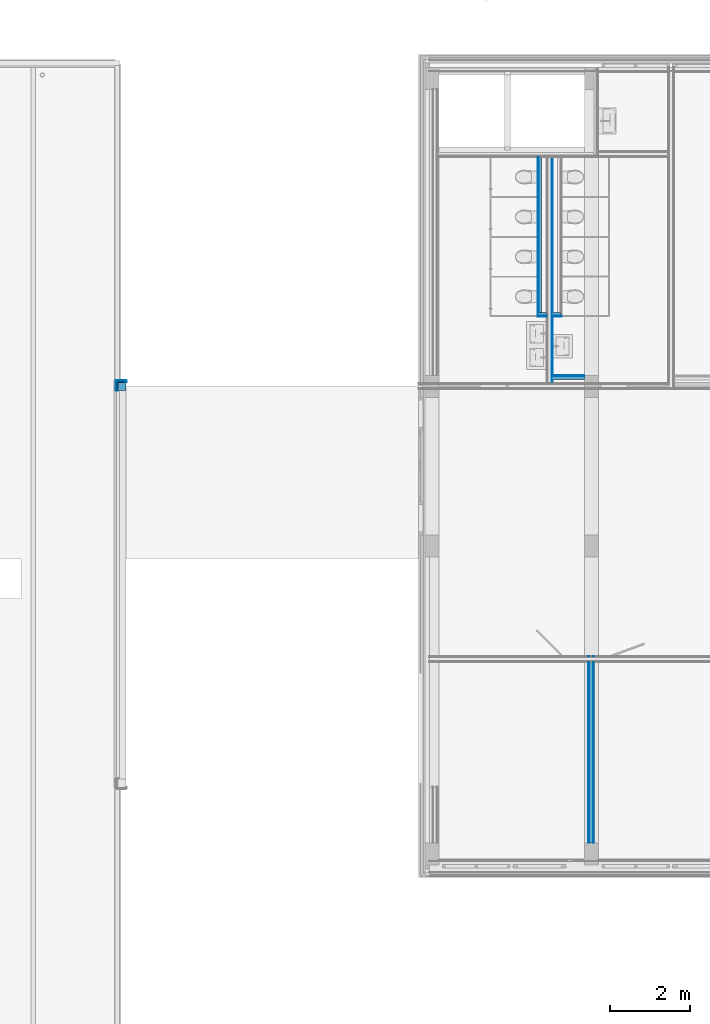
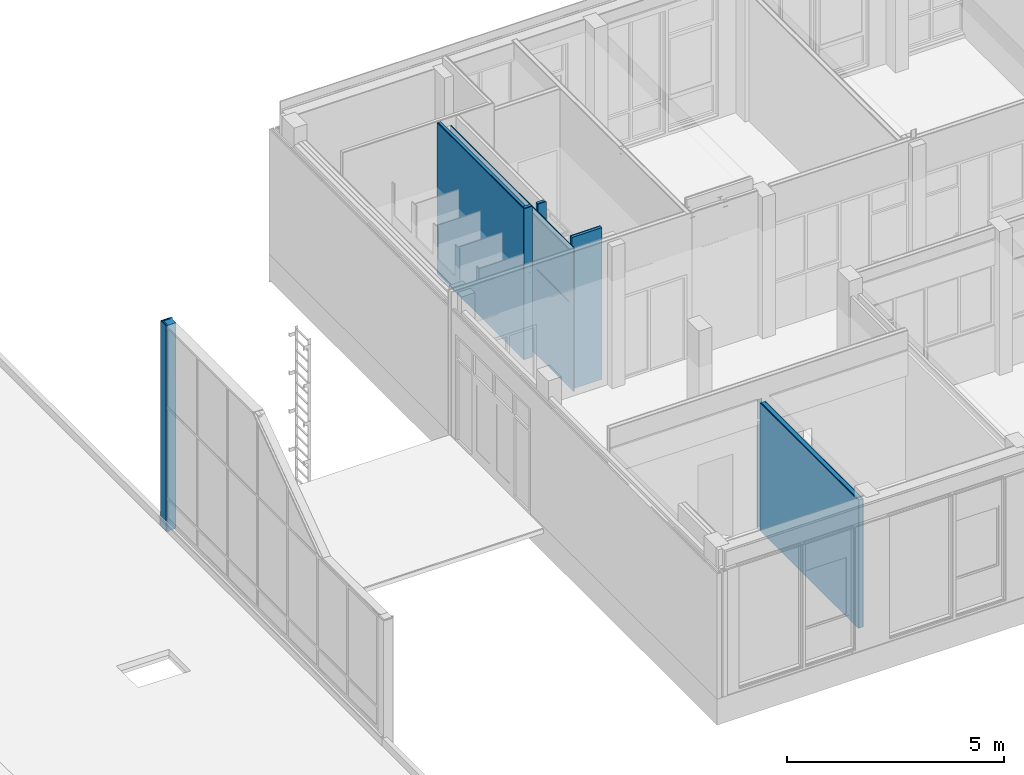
# One storey, part 21 of 54: 22 building element parts, 6 elements without a shape of their own.
"""IFC2X3 building model written with IfcOpenShell, lengths in millimetres."""

from ifc_helpers import new_model, entity, si_unit, converted_unit, derived_unit, money_unit, direction, frame, origin_with_axes, place, context, subcontext, project, spatial, faceted_brep, material, type_object, element, aggregate, save


model = new_model("IFC2X3")

# Units and contexts
model_context = context("Model", 3, precision=0.01, world=origin_with_axes(), true_north=direction((0.0, 1.0)))
body_context = subcontext(model_context, "Body", "Model", "MODEL_VIEW")
ifc_project = project(units=[si_unit("LENGTHUNIT", "METRE", prefix="MILLI"), si_unit("AREAUNIT", "SQUARE_METRE"), si_unit("VOLUMEUNIT", "CUBIC_METRE"), converted_unit("PLANEANGLEUNIT", "DEGREE", entity("IfcPlaneAngleMeasure", 0.0174532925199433), si_unit("PLANEANGLEUNIT", "RADIAN"), dimensions=[0, 0, 0, 0, 0, 0, 0]), money_unit("EUR"), converted_unit("TIMEUNIT", "Year", entity("IfcTimeMeasure", 31557600.0), si_unit("TIMEUNIT", "SECOND"), dimensions=[0, 0, 1, 0, 0, 0, 0]), si_unit("MASSUNIT", "GRAM", prefix="KILO"), si_unit("THERMODYNAMICTEMPERATUREUNIT", "DEGREE_CELSIUS"), si_unit("LUMINOUSINTENSITYUNIT", "LUMEN"), si_unit("ENERGYUNIT", "JOULE", prefix="MEGA"), derived_unit("THERMALCONDUCTANCEUNIT", [(si_unit("POWERUNIT", "WATT"), 1), (si_unit("LENGTHUNIT", "METRE"), -1), (si_unit("THERMODYNAMICTEMPERATUREUNIT", "KELVIN"), -1)]), derived_unit("SPECIFICHEATCAPACITYUNIT", [(si_unit("ENERGYUNIT", "JOULE"), 1), (si_unit("MASSUNIT", "GRAM", prefix="KILO"), -1), (si_unit("THERMODYNAMICTEMPERATUREUNIT", "KELVIN"), -1)]), derived_unit("MASSDENSITYUNIT", [(si_unit("MASSUNIT", "GRAM", prefix="KILO"), 1), (si_unit("VOLUMEUNIT", "CUBIC_METRE"), -1)])], contexts=[model_context])

# Site, building, storey
site_placement = place(None, origin_with_axes())
site = spatial("IfcSite", under=ifc_project, at=site_placement, Name="<site naam>", CompositionType="ELEMENT")
building_placement = place(site_placement, origin_with_axes())
building = spatial("IfcBuilding", under=site, at=building_placement, Name="<Naam gebouw>", CompositionType="ELEMENT")
storey_placement = place(building_placement, frame((0.0, 0.0, 8500.0), z_axis=(0.0, 0.0, 1.0), x_axis=(1.0, 0.0, 0.0)))
storey = spatial("IfcBuildingStorey", under=building, at=storey_placement, Name="02 2e verdieping", CompositionType="ELEMENT", Elevation=8500.0)

# Wall, building element parts
wall_type_1 = type_object("IfcWallType", Name="MS-01 GF 150 ECO DGS/2.100.2.A 150", PredefinedType="NOTDEFINED")
wall_1_placement = place(storey_placement, frame((16000.00000000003, 5226.069214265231, 0.0), z_axis=(0.0, 0.0, 1.0), x_axis=(0.0, -1.0, 0.0)))
wall_1 = element("IfcWall", 1, at=wall_1_placement, inside=storey, type_object=wall_type_1, Name="22_Binnenwand_MS-01")
ifc_material_1 = material(Name="gipsplaat")
building_element_part_1_placement = place(wall_1_placement, origin_with_axes())
building_element_part_1 = element("IfcBuildingElementPart", 2, at=building_element_part_1_placement, material=ifc_material_1, Name="gipsplaat", context=body_context, shape_type="Brep", body=[
    faceted_brep([(151.0692142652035, 50.00000000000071, 3610.000000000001), (151.0692142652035, 62.5, 3610.000000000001), (151.0692142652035, 62.5, 3.000000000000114), (151.0692142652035, 50.00000000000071, 3.000000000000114), (4676.069214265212, 62.5, 3610.000000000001), (4676.069214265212, 50.00000000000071, 3610.000000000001), (4676.069214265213, 62.5, 3.000000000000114), (4676.069214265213, 50.00000000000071, 3.000000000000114)], [[[0, 1, 2, 3]], [[4, 1, 0, 5]], [[1, 4, 6, 2]], [[7, 3, 2, 6]], [[5, 0, 3, 7]], [[4, 5, 7, 6]]]),
    faceted_brep([(0.0, 50.00000000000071, 3610.000000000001), (0.0, 62.5, 3610.000000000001), (0.0, 62.5, 3039.999999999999), (0.0, 50.00000000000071, 3039.999999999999), (1.069214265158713, 62.5, 3610.000000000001), (1.069214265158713, 50.00000000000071, 3610.000000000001), (1.069214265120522, 62.5, 3039.999999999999), (1.069214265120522, 50.00000000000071, 3039.999999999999)], [[[0, 1, 2, 3]], [[4, 1, 0, 5]], [[1, 4, 6, 2]], [[7, 3, 2, 6]], [[5, 0, 3, 7]], [[4, 5, 7, 6]]]),
    faceted_brep([(1.069214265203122, 62.5, 3.000000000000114), (0.0, 62.5, 3.000000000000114), (0.0, 62.5, 3000.0), (1.069214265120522, 62.5, 3000.0), (0.0, 50.00000000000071, 3.000000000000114), (1.069214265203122, 50.00000000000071, 3.000000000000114), (0.0, 50.00000000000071, 3000.0), (1.069214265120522, 50.00000000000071, 3000.0)], [[[0, 1, 2, 3]], [[4, 1, 0, 5]], [[1, 4, 6, 2]], [[3, 2, 6, 7]], [[5, 0, 3, 7]], [[4, 5, 7, 6]]]),
])
ifc_material_2 = material(Name="isolatie_steenwol LSW")
building_element_part_2_placement = place(wall_1_placement, origin_with_axes())
building_element_part_2 = element("IfcBuildingElementPart", 3, at=building_element_part_2_placement, material=ifc_material_2, Name="isolatie_steenwol LSW", context=body_context, shape_type="Brep", body=[
    faceted_brep([(151.0692142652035, -49.99999999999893, 3610.000000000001), (151.0692142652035, 50.00000000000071, 3610.000000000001), (151.0692142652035, 50.00000000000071, 3.000000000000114), (151.0692142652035, -50.00000000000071, 3.000000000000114), (4676.069214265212, 50.00000000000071, 3610.000000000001), (4676.069214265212, -50.00000000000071, 3610.000000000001), (4676.069214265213, 50.00000000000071, 3.000000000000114), (4676.069214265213, -50.00000000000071, 3.000000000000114)], [[[0, 1, 2, 3]], [[4, 1, 0, 5]], [[1, 4, 6, 2]], [[7, 3, 2, 6]], [[5, 0, 3, 7]], [[4, 5, 7, 6]]]),
    faceted_brep([(0.0, -49.99999999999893, 3610.000000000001), (0.0, 50.00000000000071, 3610.000000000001), (0.0, 50.00000000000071, 3039.999999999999), (0.0, -49.99999999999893, 3039.999999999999), (1.069214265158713, 50.00000000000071, 3610.000000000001), (1.069214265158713, -49.99999999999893, 3610.000000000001), (1.069214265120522, 50.00000000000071, 3039.999999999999), (1.069214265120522, -49.99999999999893, 3039.999999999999)], [[[0, 1, 2, 3]], [[4, 1, 0, 5]], [[1, 4, 6, 2]], [[7, 3, 2, 6]], [[5, 0, 3, 7]], [[4, 5, 7, 6]]]),
    faceted_brep([(1.069214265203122, 50.00000000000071, 3.000000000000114), (0.0, 50.00000000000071, 3.000000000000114), (0.0, 50.00000000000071, 3000.0), (1.069214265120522, 50.00000000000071, 3000.0), (0.0, -50.00000000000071, 3.000000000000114), (1.069214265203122, -50.00000000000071, 3.000000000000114), (0.0, -49.99999999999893, 3000.0), (1.069214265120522, -50.00000000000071, 3000.0)], [[[0, 1, 2, 3]], [[4, 1, 0, 5]], [[1, 4, 6, 2]], [[3, 2, 6, 7]], [[5, 0, 3, 7]], [[4, 5, 7, 6]]]),
])
building_element_part_3_placement = place(wall_1_placement, origin_with_axes())
building_element_part_3 = element("IfcBuildingElementPart", 4, at=building_element_part_3_placement, material=ifc_material_1, Name="gipsplaat", context=body_context, shape_type="Brep", body=[
    faceted_brep([(151.0692142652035, -62.5, 3610.000000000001), (151.0692142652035, -49.99999999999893, 3610.000000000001), (151.0692142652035, -50.00000000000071, 3.000000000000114), (151.0692142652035, -62.5, 3.000000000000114), (4676.069214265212, -50.00000000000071, 3610.000000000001), (4676.069214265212, -62.5, 3610.000000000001), (4676.069214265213, -50.00000000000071, 3.000000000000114), (4676.069214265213, -62.5, 3.000000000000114)], [[[0, 1, 2, 3]], [[4, 1, 0, 5]], [[1, 4, 6, 2]], [[7, 3, 2, 6]], [[5, 0, 3, 7]], [[4, 5, 7, 6]]]),
    faceted_brep([(0.0, -62.5, 3610.000000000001), (0.0, -49.99999999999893, 3610.000000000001), (0.0, -49.99999999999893, 3039.999999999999), (0.0, -62.5, 3039.999999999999), (1.069214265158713, -49.99999999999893, 3610.000000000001), (1.069214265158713, -62.5, 3610.000000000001), (1.069214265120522, -49.99999999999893, 3039.999999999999), (1.069214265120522, -62.5, 3039.999999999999)], [[[0, 1, 2, 3]], [[4, 1, 0, 5]], [[1, 4, 6, 2]], [[7, 3, 2, 6]], [[5, 0, 3, 7]], [[4, 5, 7, 6]]]),
    faceted_brep([(1.069214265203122, -50.00000000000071, 3.000000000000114), (0.0, -50.00000000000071, 3.000000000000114), (0.0, -49.99999999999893, 3000.0), (1.069214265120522, -50.00000000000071, 3000.0), (0.0, -62.5, 3.000000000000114), (1.069214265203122, -62.5, 3.000000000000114), (0.0, -62.5, 3000.0), (1.069214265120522, -62.5, 3000.0)], [[[0, 1, 2, 3]], [[4, 1, 0, 5]], [[1, 4, 6, 2]], [[3, 2, 6, 7]], [[5, 0, 3, 7]], [[4, 5, 7, 6]]]),
])
building_element_part_4_placement = place(wall_1_placement, origin_with_axes())
building_element_part_4 = element("IfcBuildingElementPart", 5, at=building_element_part_4_placement, material=ifc_material_1, Name="gipsplaat", context=body_context, shape_type="Brep", body=[
    faceted_brep([(151.0692142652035, -74.99999999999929, 3610.000000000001), (151.0692142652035, -62.5, 3610.000000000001), (151.0692142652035, -62.5, 3.000000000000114), (151.0692142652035, -74.99999999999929, 3.000000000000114), (4676.069214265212, -62.5, 3610.000000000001), (4676.069214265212, -75.00000000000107, 3610.000000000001), (4676.069214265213, -62.5, 3.000000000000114), (4676.069214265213, -75.00000000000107, 3.000000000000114)], [[[0, 1, 2, 3]], [[4, 1, 0, 5]], [[1, 4, 6, 2]], [[7, 3, 2, 6]], [[5, 0, 3, 7]], [[4, 5, 7, 6]]]),
    faceted_brep([(0.0, -74.99999999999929, 3610.000000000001), (0.0, -62.5, 3610.000000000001), (0.0, -62.5, 3039.999999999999), (0.0, -74.99999999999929, 3039.999999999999), (1.069214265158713, -62.5, 3610.000000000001), (1.069214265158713, -74.99999999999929, 3610.000000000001), (1.069214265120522, -62.5, 3039.999999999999), (1.069214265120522, -74.99999999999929, 3039.999999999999)], [[[0, 1, 2, 3]], [[4, 1, 0, 5]], [[1, 4, 6, 2]], [[7, 3, 2, 6]], [[5, 0, 3, 7]], [[4, 5, 7, 6]]]),
    faceted_brep([(1.069214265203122, -62.5, 3.000000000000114), (0.0, -62.5, 3.000000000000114), (0.0, -62.5, 3000.0), (1.069214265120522, -62.5, 3000.0), (0.0, -74.99999999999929, 3.000000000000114), (1.069214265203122, -74.99999999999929, 3.000000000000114), (0.0, -74.99999999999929, 3000.0), (1.069214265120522, -74.99999999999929, 3000.0)], [[[0, 1, 2, 3]], [[4, 1, 0, 5]], [[1, 4, 6, 2]], [[3, 2, 6, 7]], [[5, 0, 3, 7]], [[4, 5, 7, 6]]]),
])
aggregate(wall_1, [building_element_part_1, building_element_part_2, building_element_part_3, building_element_part_4])

wall_type_2 = type_object("IfcWallType", Name="MS-03 GF 100 HTT DGS V/100.2 100", PredefinedType="NOTDEFINED")
wall_2_placement = place(storey_placement, frame((14750.00000000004, 13749.78809223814, 0.0), z_axis=(0.0, 0.0, 1.0), x_axis=(0.9999999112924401, 0.0004212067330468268, 0.0)))
wall_2 = element("IfcWall", 6, at=wall_2_placement, inside=storey, type_object=wall_type_2, Name="22_Binnenwand_MS-03")
building_element_part_5_placement = place(wall_2_placement, origin_with_axes())
building_element_part_5 = element("IfcBuildingElementPart", 7, at=building_element_part_5_placement, material=ifc_material_2, Name="isolatie_steenwol LSW", context=body_context, shape_type="Brep", body=[
    faceted_brep([(475.042167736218, 99.99999999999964, 0.0), (475.000497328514, 24.99999999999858, 0.0), (275.0039364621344, 24.99999999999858, 0.0), (275.0355269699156, 99.99999999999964, 0.0), (475.042167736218, 99.99999999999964, 4250.0), (475.000497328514, 24.99999999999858, 4250.0), (275.0039364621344, 24.99999999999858, 4250.0), (275.0355269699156, 99.99999999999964, 4250.0)], [[[0, 1, 2, 3]], [[1, 0, 4, 5]], [[1, 5, 6, 2]], [[7, 3, 2, 6]], [[4, 0, 3, 7]], [[5, 4, 7, 6]]]),
    faceted_brep([(125.035513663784, 100.0000000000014, 0.0), (125.0039231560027, 25.00000000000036, 0.0), (-74.98947648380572, 25.00000000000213, 0.0), (-74.95788597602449, 100.0000000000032, 0.0), (125.035513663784, 100.0000000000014, 4250.0), (125.0039231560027, 25.00000000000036, 4250.0), (-74.98947648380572, 25.00000000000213, 4250.0), (-74.95788597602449, 100.0000000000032, 4250.0)], [[[0, 1, 2, 3]], [[1, 0, 4, 5]], [[1, 5, 6, 2]], [[7, 3, 2, 6]], [[4, 0, 3, 7]], [[5, 4, 7, 6]]]),
])
building_element_part_6_placement = place(wall_2_placement, origin_with_axes())
building_element_part_6 = element("IfcBuildingElementPart", 8, at=building_element_part_6_placement, material=ifc_material_1, Name="gipsplaat", context=body_context, shape_type="Brep", body=[
    faceted_brep([(487.5004992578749, 24.99999999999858, 0.0), (487.4935541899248, 12.50000000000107, 0.0), (274.9986713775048, 12.49999999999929, 0.0), (275.0039364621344, 24.99999999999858, 0.0), (487.5004992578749, 24.99999999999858, 4250.0), (487.4935541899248, 12.50000000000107, 4250.0), (274.9986713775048, 12.50000000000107, 4250.0), (275.0039364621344, 24.99999999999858, 4250.0)], [[[0, 1, 2, 3]], [[1, 0, 4, 5]], [[1, 5, 6, 2]], [[7, 3, 2, 6]], [[4, 0, 3, 7]], [[5, 4, 7, 6]]]),
    faceted_brep([(125.0039231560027, 25.00000000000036, 0.0), (124.9986580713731, 12.50000000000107, 0.0), (-87.49474267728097, 12.49999999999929, 0.0), (-87.48947759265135, 25.00000000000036, 0.0), (125.0039231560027, 25.00000000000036, 4250.0), (124.9986580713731, 12.50000000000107, 4250.0), (-87.49474267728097, 12.50000000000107, 4250.0), (-87.48947759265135, 25.00000000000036, 4250.0)], [[[0, 1, 2, 3]], [[1, 0, 4, 5]], [[1, 5, 6, 2]], [[7, 3, 2, 6]], [[4, 0, 3, 7]], [[5, 4, 7, 6]]]),
])
building_element_part_7_placement = place(wall_2_placement, origin_with_axes())
building_element_part_7 = element("IfcBuildingElementPart", 9, at=building_element_part_7_placement, material=ifc_material_1, Name="gipsplaat", context=body_context, shape_type="Brep", body=[
    faceted_brep([(400.181459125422, 0.0, 2400.0), (274.9934062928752, 0.0, 2400.0), (274.9934062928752, 0.0, 0.0), (499.9866110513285, 0.0, 0.0), (499.9866110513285, 0.0, 4250.0), (274.9934062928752, 0.0, 4250.0), (274.9934062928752, 0.0, 2440.0), (400.181459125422, 0.0, 2440.0), (274.9934285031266, 0.05273004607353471, 2400.0), (274.9934285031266, 0.05273004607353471, 2440.0), (274.9986713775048, 12.50000000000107, 4250.0), (274.9986713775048, 12.49999999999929, 0.0), (499.9935561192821, 12.50000000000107, 0.0), (499.9935561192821, 12.50000000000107, 4250.0)], [[[0, 1, 2, 3, 4, 5, 6, 7]], [[1, 0, 8]], [[9, 6, 5, 10, 11, 2, 1, 8]], [[12, 3, 2, 11]], [[3, 12, 13, 4]], [[4, 13, 10, 5]], [[7, 6, 9]], [[0, 7, 9, 8]], [[13, 12, 11, 10]]]),
    faceted_brep([(124.9934418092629, 0.1159110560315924, 2400.0), (124.9933929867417, 0.0, 2400.0), (124.9933929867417, 0.0, 0.0), (124.9986580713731, 12.50000000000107, 0.0), (124.9986580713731, 12.50000000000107, 4250.0), (124.9933929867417, 0.0, 4250.0), (124.9933929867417, 0.0, 2440.0), (124.9934418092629, 0.1159110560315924, 2440.0), (-99.9999288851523, 0.2106797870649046, 2400.0), (-100.0000088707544, 0.0, 2400.0), (-100.0000088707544, 0.0, 0.0), (-99.99474378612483, 12.49999999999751, 0.0), (-99.99474378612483, 12.49999999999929, 4250.0), (-100.0000088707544, 0.0, 4250.0), (-100.0000088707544, 0.0, 2440.0), (-99.9999288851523, 0.2106797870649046, 2440.0)], [[[0, 1, 2, 3, 4, 5, 6, 7]], [[1, 0, 8, 9]], [[1, 9, 10, 2]], [[3, 2, 10, 11]], [[4, 3, 11, 12]], [[5, 4, 12, 13]], [[14, 6, 5, 13]], [[7, 6, 14, 15]], [[0, 7, 15, 8]], [[15, 14, 13, 12, 11, 10, 9, 8]]]),
])
aggregate(wall_2, [building_element_part_5, building_element_part_6, building_element_part_7])

wall_3_placement = place(storey_placement, frame((14750.00000000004, 17749.99999999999, 0.0), z_axis=(0.0, 0.0, 1.0), x_axis=(0.0, -1.0, 0.0)))
wall_3 = element("IfcWall", 10, at=wall_3_placement, inside=storey, type_object=wall_type_2, Name="22_Binnenwand_MS-03")
building_element_part_8_placement = place(wall_3_placement, origin_with_axes())
building_element_part_8 = element("IfcBuildingElementPart", 11, at=building_element_part_8_placement, material=ifc_material_2, Name="isolatie_steenwol LSW", context=body_context, shape_type="Brep", body=[
    faceted_brep([(3900.211898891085, 0.0, 0.0), (3900.243489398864, -75.00000000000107, 0.0), (0.0, -74.99999999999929, 0.0), (0.0, 0.0, 0.0), (3900.211898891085, 0.0, 4250.0), (3900.243489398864, -75.00000000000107, 4250.0), (0.0, -74.99999999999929, 4250.0), (0.0, 0.0, 4250.0)], [[[0, 1, 2, 3]], [[1, 0, 4, 5]], [[1, 5, 6, 2]], [[7, 3, 2, 6]], [[4, 0, 3, 7]], [[5, 4, 7, 6]]]),
])
building_element_part_9_placement = place(wall_3_placement, origin_with_axes())
building_element_part_9 = element("IfcBuildingElementPart", 12, at=building_element_part_9_placement, material=ifc_material_1, Name="gipsplaat", context=body_context, shape_type="Brep", body=[
    faceted_brep([(3975.243496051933, -75.00000000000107, 0.0), (3975.248761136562, -87.50000000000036, 0.0), (0.0, -87.50000000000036, 0.0), (0.0, -74.99999999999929, 0.0), (3975.243496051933, -75.00000000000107, 4250.0), (3975.248761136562, -87.50000000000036, 4250.0), (0.0, -87.50000000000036, 4250.0), (0.0, -74.99999999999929, 4250.0)], [[[0, 1, 2, 3]], [[1, 0, 4, 5]], [[1, 5, 6, 2]], [[7, 3, 2, 6]], [[4, 0, 3, 7]], [[5, 4, 7, 6]]]),
])
building_element_part_10_placement = place(wall_3_placement, origin_with_axes())
building_element_part_10 = element("IfcBuildingElementPart", 13, at=building_element_part_10_placement, material=ifc_material_1, Name="gipsplaat", context=body_context, shape_type="Brep", body=[
    faceted_brep([(3987.748762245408, -87.50000000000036, 0.0), (3987.754027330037, -99.99999999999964, 0.0), (0.0, -99.99999999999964, 0.0), (0.0, -87.50000000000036, 0.0), (3987.748762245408, -87.50000000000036, 4250.0), (3987.754027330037, -99.99999999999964, 4250.0), (0.0, -99.99999999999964, 4250.0), (0.0, -87.50000000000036, 4250.0)], [[[0, 1, 2, 3]], [[1, 0, 4, 5]], [[1, 5, 6, 2]], [[7, 3, 2, 6]], [[4, 0, 3, 7]], [[5, 4, 7, 6]]]),
])
aggregate(wall_3, [building_element_part_8, building_element_part_9, building_element_part_10])

wall_4_placement = place(storey_placement, frame((14949.99338189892, 17749.99999999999, 0.0), z_axis=(0.0, 0.0, 1.0), x_axis=(0.0, -1.0, 0.0)))
wall_4 = element("IfcWall", 14, at=wall_4_placement, inside=storey, type_object=wall_type_1, Name="22_Binnenwand_MS-01")
building_element_part_11_placement = place(wall_4_placement, origin_with_axes())
building_element_part_11 = element("IfcBuildingElementPart", 15, at=building_element_part_11_placement, material=ifc_material_1, Name="gipsplaat", context=body_context, shape_type="Brep", body=[
    faceted_brep([(0.0, 62.49999999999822, 4050.000014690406), (0.0, 75.00000000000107, 4050.000014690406), (0.0, 75.00000000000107, 0.0), (0.0, 62.49999999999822, 0.0), (5674.999999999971, 75.00000000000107, 4050.000014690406), (5674.999999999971, 62.49999999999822, 4050.000014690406), (5674.999999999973, 75.00000000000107, 3.000000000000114), (4000.096078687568, 75.00000000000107, 3.000000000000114), (4000.096078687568, 75.00000000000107, 0.0), (4000.043348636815, 75.00000000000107, 2400.0), (5470.211383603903, 75.00000000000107, 2400.0), (5470.211383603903, 75.00000000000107, 2440.0), (4000.043348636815, 75.00000000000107, 2440.0), (4000.101343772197, 62.49999999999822, 0.0), (4000.101343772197, 62.49999999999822, 3.000000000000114), (5674.999999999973, 62.49999999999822, 3.000000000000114), (5470.211383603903, 62.49999999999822, 2440.0), (5470.211383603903, 62.49999999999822, 2400.0), (4000.043348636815, 62.49999999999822, 2400.0), (4000.043348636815, 62.49999999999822, 2440.0)], [[[0, 1, 2, 3]], [[4, 1, 0, 5]], [[1, 4, 6, 7, 8, 2], [9, 10, 11, 12]], [[2, 8, 13, 3]], [[5, 0, 3, 13, 14, 15], [16, 17, 18, 19]], [[4, 5, 15, 6]], [[14, 7, 6, 15]], [[13, 8, 7, 14]], [[17, 10, 9, 18]], [[16, 11, 10, 17]], [[19, 12, 11, 16]], [[18, 9, 12, 19]]]),
])
building_element_part_12_placement = place(wall_4_placement, origin_with_axes())
building_element_part_12 = element("IfcBuildingElementPart", 16, at=building_element_part_12_placement, material=ifc_material_1, Name="gipsplaat", context=body_context, shape_type="Brep", body=[
    faceted_brep([(0.0, 50.00000000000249, 4050.000014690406), (0.0, 62.49999999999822, 4050.000014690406), (0.0, 62.49999999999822, 0.0), (0.0, 50.00000000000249, 0.0), (5674.999999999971, 62.49999999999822, 4050.000014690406), (5674.999999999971, 50.00000000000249, 4050.000014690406), (5674.999999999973, 62.49999999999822, 3.000000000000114), (4000.101343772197, 62.49999999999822, 3.000000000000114), (4000.101343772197, 62.49999999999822, 0.0), (4000.043348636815, 62.49999999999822, 2400.0), (5470.211383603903, 62.49999999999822, 2400.0), (5470.211383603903, 62.49999999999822, 2440.0), (4000.043348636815, 62.49999999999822, 2440.0), (4000.106608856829, 49.99999999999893, 0.0), (4000.106608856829, 50.00000000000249, 3.000000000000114), (5674.999999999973, 49.99999999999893, 3.000000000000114), (5470.211383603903, 50.00000000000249, 2440.0), (5470.211383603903, 50.00000000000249, 2400.0), (4000.043348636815, 50.00000000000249, 2400.0), (4000.043348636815, 50.00000000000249, 2440.0)], [[[0, 1, 2, 3]], [[4, 1, 0, 5]], [[1, 4, 6, 7, 8, 2], [9, 10, 11, 12]], [[2, 8, 13, 3]], [[5, 0, 3, 13, 14, 15], [16, 17, 18, 19]], [[4, 5, 15, 6]], [[14, 7, 6, 15]], [[13, 8, 7, 14]], [[17, 10, 9, 18]], [[16, 11, 10, 17]], [[19, 12, 11, 16]], [[18, 9, 12, 19]]]),
])
aggregate(wall_4, [building_element_part_11, building_element_part_12])

# Column, building element parts
column_type = type_object("IfcColumnType", Name="aluminium zetwerk hoek vliesgevel 272 x 272", PredefinedType="COLUMN")
column_placement = place(storey_placement, frame((4065.97774063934, 12159.98170368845, 0.0), z_axis=(0.0, 0.0, 1.0), x_axis=(-1.0, 0.0, 0.0)))
column = element("IfcColumn", 17, at=column_placement, inside=storey, type_object=column_type, Name="41_Kolom_aluminium", ObjectType="COLUMN")
ifc_material_3 = material(Name="ALG - ISOLATIE met lijn")
building_element_part_13_placement = place(column_placement, origin_with_axes())
building_element_part_13 = element("IfcBuildingElementPart", 18, at=building_element_part_13_placement, material=ifc_material_3, Name="ALG - ISOLATIE met lijn", context=body_context, shape_type="Brep", body=[
    faceted_brep([(-99.02225936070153, 22.50000092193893, 269.9986434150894), (-22.49999655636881, 22.50000092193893, 269.9986434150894), (-22.49999655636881, 22.50000092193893, 5784.99821910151), (-272.468059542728, 22.50000092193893, 5784.99821910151), (-272.468059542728, 22.50000092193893, 0.0), (-259.0217796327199, 22.50000092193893, 4.881961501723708e-07), (-259.0217796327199, 22.50000092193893, 360.0000012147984), (-100.0217796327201, 22.50000092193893, 360.0000012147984), (-100.0217796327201, 22.50000092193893, 5.680362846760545e-07), (-99.02225936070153, 22.50000092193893, 5.607123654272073e-07), (-99.02225936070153, 50.95092030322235, 269.9986434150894), (-51.99999973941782, 50.95092030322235, 269.9986434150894), (-51.99999973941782, 52.50000131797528, 269.9986434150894), (-22.49999655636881, 52.50000131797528, 269.9986434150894), (-22.49999655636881, 52.50000131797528, 5784.99821910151), (-51.99999973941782, 52.50000131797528, 5784.99821910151), (-51.99999973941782, 50.95092030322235, 5784.99821910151), (-258.5224156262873, 50.95092030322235, 5784.99821910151), (-258.5224156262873, 52.50000131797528, 5784.99821910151), (-272.468059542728, 52.50000131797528, 5784.99821910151), (-272.468059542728, 52.50000131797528, 0.0), (-259.0217796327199, 52.50000131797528, 3.816662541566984e-07), (-259.0217796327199, 52.50000131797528, 360.0000012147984), (-258.5224156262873, 52.50000131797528, 360.0000012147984), (-258.5224156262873, 50.95092030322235, 360.0000012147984), (-100.0217796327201, 50.95092030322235, 360.0000012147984), (-100.0217796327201, 50.95092030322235, 5.680362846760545e-07), (-99.02225936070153, 50.95092030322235, 5.562128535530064e-07)], [[[0, 1, 2, 3, 4, 5, 6, 7, 8, 9]], [[1, 0, 10, 11, 12, 13]], [[1, 13, 14, 2]], [[15, 16, 17, 18, 19, 3, 2, 14]], [[19, 20, 4, 3]], [[21, 5, 4, 20]], [[6, 5, 21, 22]], [[7, 6, 22, 23, 24, 25]], [[8, 7, 25, 26]], [[27, 9, 8, 26]], [[0, 9, 27, 10]], [[10, 27, 26, 25, 24, 17, 16, 11]], [[12, 11, 16, 15]], [[13, 12, 15, 14]], [[24, 23, 18, 17]], [[22, 21, 20, 19, 18, 23]]]),
])
building_element_part_14_placement = place(column_placement, origin_with_axes())
building_element_part_14 = element("IfcBuildingElementPart", 19, at=building_element_part_14_placement, material=ifc_material_3, Name="ALG - ISOLATIE met lijn", context=body_context, shape_type="Brep", body=[
    faceted_brep([(-52.50000268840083, 272.4680601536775, 269.9986434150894), (-52.50000268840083, 259.0029515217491, 269.9986434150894), (-52.50000268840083, 259.0029515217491, 5784.99821910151), (-52.50000268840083, 272.4680601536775, 5784.99821910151), (-51.99999989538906, 259.0029515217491, 269.9986434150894), (-22.49999655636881, 272.4680601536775, 269.9986434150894), (-22.49999655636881, 52.49999954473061, 269.9986434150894), (-51.99999989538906, 52.49999954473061, 269.9986434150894), (-51.99999989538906, 259.0029515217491, 5784.99821910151), (-22.49999655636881, 272.4680601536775, 5784.99821910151), (-51.99999989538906, 52.49999954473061, 5784.99821910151), (-22.49999655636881, 52.49999954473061, 5784.99821910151)], [[[0, 1, 2, 3]], [[4, 1, 0, 5, 6, 7]], [[1, 4, 8, 2]], [[9, 3, 2, 8, 10, 11]], [[5, 0, 3, 9]], [[6, 5, 9, 11]], [[7, 6, 11, 10]], [[4, 7, 10, 8]]]),
])
ifc_material_4 = material(Name="Rubber")
building_element_part_15_placement = place(column_placement, origin_with_axes())
building_element_part_15 = element("IfcBuildingElementPart", 20, at=building_element_part_15_placement, material=ifc_material_4, Name="Rubber", context=body_context, shape_type="Brep", body=[
    faceted_brep([(-20.49999289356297, 272.4680595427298, 5784.99821910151), (-20.49999289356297, 253.0030740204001, 5784.99821910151), (-20.49999289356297, 253.0030740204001, 0.0), (-20.49999289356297, 272.4680595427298, 0.0), (-252.4756312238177, 20.50000101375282, 5784.99821910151), (-20.49999289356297, 20.50000101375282, 5784.99821910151), (-22.49999536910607, 272.4680595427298, 5784.99821910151), (-22.49999536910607, 22.49999942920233, 5784.99821910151), (-272.468059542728, 22.49999942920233, 5784.99821910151), (-272.468059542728, 20.50000101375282, 5784.99821910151), (-20.49999289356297, 20.50000101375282, 0.0), (-22.49999536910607, 272.4680595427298, 0.0), (-252.4756312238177, 20.50000101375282, 0.0), (-272.468059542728, 20.50000101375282, 0.0), (-272.468059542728, 22.49999942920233, 0.0), (-22.49999536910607, 22.49999942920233, 0.0)], [[[0, 1, 2, 3]], [[4, 5, 1, 0, 6, 7, 8, 9]], [[1, 5, 10, 2]], [[11, 3, 2, 10, 12, 13, 14, 15]], [[6, 0, 3, 11]], [[5, 4, 12, 10]], [[7, 6, 11, 15]], [[8, 7, 15, 14]], [[9, 8, 14, 13]], [[4, 9, 13, 12]]]),
])
building_element_part_16_placement = place(column_placement, origin_with_axes())
building_element_part_16 = element("IfcBuildingElementPart", 21, at=building_element_part_16_placement, material=ifc_material_4, Name="Rubber", context=body_context, shape_type="Brep", body=[
    faceted_brep([(-54.50000310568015, 272.4680595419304, 5784.99821910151), (-54.50000310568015, 272.4680595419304, 0.0), (-54.50000310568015, 259.0029500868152, 0.0), (-54.50000310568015, 259.0029500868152, 5784.99821910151), (-52.50000194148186, 272.4680595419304, 5784.99821910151), (-52.50000194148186, 272.4680595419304, 0.0), (-52.50000194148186, 259.0029500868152, 0.0), (-52.50000194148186, 259.0029500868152, 5784.99821910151)], [[[0, 1, 2, 3]], [[4, 5, 1, 0]], [[2, 1, 5, 6]], [[3, 2, 6, 7]], [[4, 0, 3, 7]], [[7, 6, 5, 4]]]),
    faceted_brep([(-272.4680587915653, 52.50000269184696, 0.0), (-258.5224159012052, 52.50000269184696, 0.0), (-258.5224159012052, 52.50000269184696, 5784.99821910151), (-272.4680587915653, 52.50000269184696, 5784.99821910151), (-272.4680587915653, 54.49999725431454, 0.0), (-258.5224159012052, 54.49999725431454, 0.0), (-258.5224159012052, 54.49999725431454, 5784.99821910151), (-272.4680587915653, 54.49999725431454, 5784.99821910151)], [[[0, 1, 2, 3]], [[0, 4, 5, 1]], [[1, 5, 6, 2]], [[3, 2, 6, 7]], [[4, 0, 3, 7]], [[5, 4, 7, 6]]]),
])
ifc_material_5 = material(Name="gevelafwerking type 3 - Aluminium RAL1036")
building_element_part_17_placement = place(column_placement, origin_with_axes())
building_element_part_17 = element("IfcBuildingElementPart", 22, at=building_element_part_17_placement, material=ifc_material_5, Name="gevelafwerking type 3 - Aluminium RAL1036", context=body_context, shape_type="Brep", body=[
    faceted_brep([(-0.9530868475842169, 0.9530909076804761, 0.0), (-1.000001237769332, 1.000005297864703, 0.0), (-1.000001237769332, 1.000005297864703, 5784.99821910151), (-0.9530868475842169, 0.9530909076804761, 5784.99821910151), (0.0, 0.0, 0.0), (-253.4755065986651, 0.0, 0.0), (-253.4755065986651, 19.47333713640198, 0.0), (-272.468059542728, 19.47333713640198, 0.0), (-272.468059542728, 20.50000101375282, 0.0), (-252.4756312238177, 20.50000101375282, 0.0), (-252.4756312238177, 1.000005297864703, 0.0), (-252.4756312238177, 1.000005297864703, 5784.99821910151), (-252.4756312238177, 20.50000101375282, 5784.99821910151), (-272.468059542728, 20.50000101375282, 5784.99821910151), (-272.468059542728, 19.47333713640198, 5784.99821910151), (-253.4755065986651, 19.47333713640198, 5784.99821910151), (-253.4755065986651, 0.0, 5784.99821910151), (0.0, 0.0, 5784.99821910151)], [[[0, 1, 2, 3]], [[0, 4, 5, 6, 7, 8, 9, 10, 1]], [[1, 10, 11, 2]], [[3, 2, 11, 12, 13, 14, 15, 16, 17]], [[4, 0, 3, 17]], [[5, 4, 17, 16]], [[6, 5, 16, 15]], [[7, 6, 15, 14]], [[8, 7, 14, 13]], [[9, 8, 13, 12]], [[10, 9, 12, 11]]]),
])
building_element_part_18_placement = place(column_placement, origin_with_axes())
building_element_part_18 = element("IfcBuildingElementPart", 23, at=building_element_part_18_placement, material=ifc_material_5, Name="gevelafwerking type 3 - Aluminium RAL1036", context=body_context, shape_type="Brep", body=[
    faceted_brep([(-19.52642707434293, 272.4680588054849, 0.0), (-20.49999265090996, 272.4680588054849, 0.0), (-20.49999265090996, 272.4680588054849, 5784.99821910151), (-19.52642707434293, 272.4680588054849, 5784.99821910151), (-19.52642707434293, 254.0029513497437, 0.0), (0.0, 254.0029513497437, 0.0), (0.0, 0.0, 0.0), (-0.9530888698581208, 0.953092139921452, 0.0), (-0.9530945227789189, 253.0030740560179, 0.0), (-20.49999265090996, 253.0030740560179, 0.0), (-20.49999265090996, 253.0030740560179, 5784.99821910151), (-0.9530945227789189, 253.0030740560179, 5784.99821910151), (-0.9530888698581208, 0.953092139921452, 5784.99821910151), (0.0, 0.0, 5784.99821910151), (0.0, 254.0029513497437, 5784.99821910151), (-19.52642707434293, 254.0029513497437, 5784.99821910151)], [[[0, 1, 2, 3]], [[0, 4, 5, 6, 7, 8, 9, 1]], [[1, 9, 10, 2]], [[3, 2, 10, 11, 12, 13, 14, 15]], [[4, 0, 3, 15]], [[5, 4, 15, 14]], [[6, 5, 14, 13]], [[7, 6, 13, 12]], [[8, 7, 12, 11]], [[9, 8, 11, 10]]]),
])
ifc_material_6 = material(Name="isolatie_kunststof_zacht")
building_element_part_19_placement = place(column_placement, origin_with_axes())
building_element_part_19 = element("IfcBuildingElementPart", 24, at=building_element_part_19_placement, material=ifc_material_6, Name="isolatie_kunststof_zacht", context=body_context, shape_type="Brep", body=[
    faceted_brep([(-54.50000310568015, 259.0029500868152, 0.0), (-258.5224163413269, 259.0029513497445, 0.0), (-258.5224163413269, 259.0029513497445, 5784.99821910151), (-54.50000310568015, 259.0029500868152, 5784.99821910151), (-51.9999999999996, 259.0029513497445, 0.0), (-51.9999999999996, 50.9509195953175, 0.0), (-258.5224163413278, 50.9509195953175, 0.0), (-258.5224159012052, 54.49999725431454, 0.0), (-258.5224159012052, 54.49999725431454, 5784.99821910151), (-258.5224163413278, 50.9509195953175, 5784.99821910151), (-51.9999999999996, 50.9509195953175, 5784.99821910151), (-51.9999999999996, 259.0029513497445, 5784.99821910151)], [[[0, 1, 2, 3]], [[0, 4, 5, 6, 7, 1]], [[1, 7, 8, 2]], [[3, 2, 8, 9, 10, 11]], [[4, 0, 3, 11]], [[5, 4, 11, 10]], [[6, 5, 10, 9]], [[7, 6, 9, 8]]]),
])
aggregate(column, [building_element_part_13, building_element_part_14, building_element_part_15, building_element_part_16, building_element_part_17, building_element_part_18, building_element_part_19])

# Wall, building element parts
wall_5_placement = place(storey_placement, frame((14950.00000000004, 12275.00000000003, 0.0), z_axis=(0.0, 0.0, 1.0), x_axis=(1.0, 0.0, 0.0)))
wall_5 = element("IfcWall", 25, at=wall_5_placement, inside=storey, type_object=wall_type_2, Name="22_Binnenwand_MS-03")
building_element_part_20_placement = place(wall_5_placement, origin_with_axes())
building_element_part_20 = element("IfcBuildingElementPart", 26, at=building_element_part_20_placement, material=ifc_material_1, Name="gipsplaat", context=body_context, shape_type="Brep", body=[
    faceted_brep([(875.0, -12.49999999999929, 3.000000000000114), (875.0, 0.0, 3.000000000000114), (875.0, 0.0, 4270.0), (875.0, -12.49999999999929, 4270.0), (74.99338189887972, 0.0, 3.000000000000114), (74.99338189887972, -12.49999999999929, 3.000000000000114), (74.99338189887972, 0.0, 4270.0), (74.99338189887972, -12.49999999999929, 4270.0)], [[[0, 1, 2, 3]], [[4, 1, 0, 5]], [[1, 4, 6, 2]], [[7, 3, 2, 6]], [[5, 0, 3, 7]], [[4, 5, 7, 6]]]),
])
building_element_part_21_placement = place(wall_5_placement, origin_with_axes())
building_element_part_21 = element("IfcBuildingElementPart", 27, at=building_element_part_21_placement, material=ifc_material_1, Name="gipsplaat", context=body_context, shape_type="Brep", body=[
    faceted_brep([(875.0, -25.00000000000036, 3.000000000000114), (875.0, -12.49999999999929, 3.000000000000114), (875.0, -12.49999999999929, 4270.0), (875.0, -25.00000000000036, 4270.0), (74.99338189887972, -12.49999999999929, 3.000000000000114), (74.99338189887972, -25.00000000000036, 3.000000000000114), (74.99338189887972, -12.49999999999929, 4270.0), (74.99338189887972, -25.00000000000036, 4270.0)], [[[0, 1, 2, 3]], [[4, 1, 0, 5]], [[1, 4, 6, 2]], [[7, 3, 2, 6]], [[5, 0, 3, 7]], [[4, 5, 7, 6]]]),
])
building_element_part_22_placement = place(wall_5_placement, origin_with_axes())
building_element_part_22 = element("IfcBuildingElementPart", 28, at=building_element_part_22_placement, material=ifc_material_2, Name="isolatie_steenwol LSW", context=body_context, shape_type="Brep", body=[
    faceted_brep([(875.0, -99.99999999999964, 3.000000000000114), (875.0, -25.00000000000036, 3.000000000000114), (875.0, -25.00000000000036, 4270.0), (875.0, -99.99999999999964, 4270.0), (74.99338189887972, -25.00000000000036, 3.000000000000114), (74.99338189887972, -99.99999999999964, 3.000000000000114), (74.99338189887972, -25.00000000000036, 4270.0), (74.99338189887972, -99.99999999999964, 4270.0)], [[[0, 1, 2, 3]], [[4, 1, 0, 5]], [[1, 4, 6, 2]], [[7, 3, 2, 6]], [[5, 0, 3, 7]], [[4, 5, 7, 6]]]),
])
aggregate(wall_5, [building_element_part_20, building_element_part_21, building_element_part_22])

save(model, "model.ifc")
